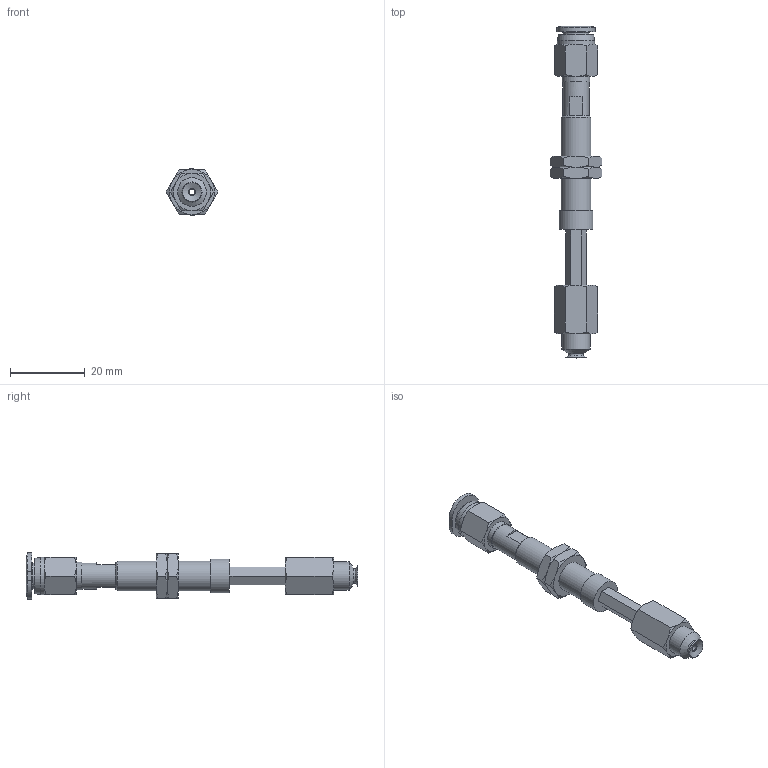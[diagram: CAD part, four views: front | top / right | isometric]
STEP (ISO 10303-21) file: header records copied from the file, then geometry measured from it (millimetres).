
FILE_DESCRIPTION(('STEP AP203'),'1');
FILE_NAME('-O.stp','2025-08-27T02:50:31',(' '),(' '),'Spatial InterOp 3D',' ',' ');
FILE_SCHEMA(('CONFIG_CONTROL_DESIGN'));
Length unit declared in the file: millimetre
Products named in the file (7): BNABPFTH-5A-15-※-O; ADAPTER; NAPATH-10A-15--M; Nut-5A-15-h; NAPFTH-5A-15-FBODY; BPFG-5A-※; PC-C_06-M5
Assembly tree (7 placements, depth 2):
  BNABPFTH-5A-15-※-O
    ADAPTER
    NAPATH-10A-15--M
    Nut-5A-15-h  x2
    NAPFTH-5A-15-FBODY
    BPFG-5A-※
    PC-C_06-M5
Bounding box: 13.86 x 88.98 x 12.4 mm (x, y, z)
Volume: 3805.3 mm3; surface area: 5653.4 mm2
Topology: 6 solids, 9 shells, 173 faces, 366 edges, 222 vertices
Faces by surface type: plane 69, cone 62, cylinder 23, torus 11, bspline 5, revolution 3
Full cylindrical faces by diameter (mm): 1.4 x1, 2 x2, 4 x4, 4.134 x1, 5 x1, 6 x2, 7 x2, 7.188 x2, 7.4 x1, 7.7 x1, 8 x1, 8.2 x1, 9 x1, 10 x1
Entity records: 4495 total; most frequent: CARTESIAN_POINT 1268, DIRECTION 593, ORIENTED_EDGE 520, EDGE_CURVE 262, AXIS2_PLACEMENT_3D 257, EDGE_LOOP 220, VERTEX_POINT 184, FACE_OUTER_BOUND 122
